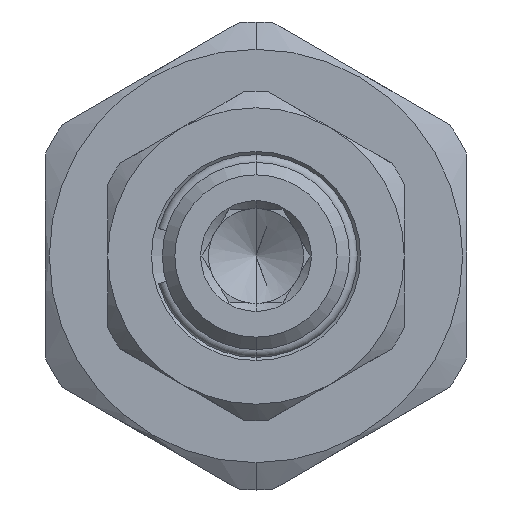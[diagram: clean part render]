
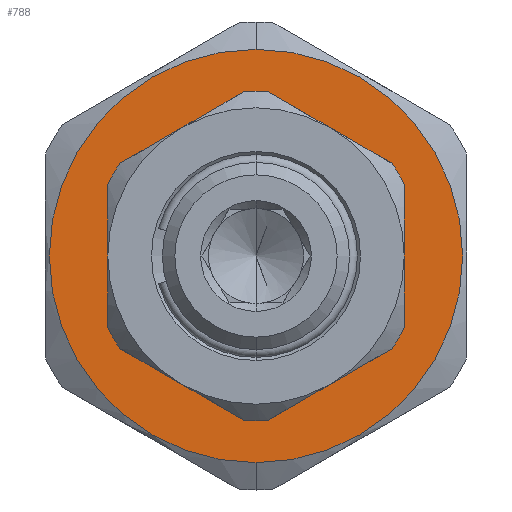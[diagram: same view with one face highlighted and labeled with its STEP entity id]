
A CAD part, left-side view. The second image highlights one B-rep face of the part: STEP entity #788.
In plain terms, the highlighted planar face has unit normal (-1, 0, 0).
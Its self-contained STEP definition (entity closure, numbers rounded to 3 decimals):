
#93 = CIRCLE ( 'NONE', #8379, 13.25 ) ;
#389 = CARTESIAN_POINT ( 'NONE',  ( -36., 0., 0. ) ) ;
#471 = AXIS2_PLACEMENT_3D ( 'NONE', #8815, #3409, #9232 ) ;
#739 = ORIENTED_EDGE ( 'NONE', *, *, #4843, .F. ) ;
#788 = ADVANCED_FACE ( 'NONE', ( #6134, #1448 ), #3931, .F. ) ;
#803 = AXIS2_PLACEMENT_3D ( 'NONE', #4957, #6994, #5542 ) ;
#976 = VERTEX_POINT ( 'NONE', #6452 ) ;
#1022 = CIRCLE ( 'NONE', #5038, 9.5 ) ;
#1064 = ORIENTED_EDGE ( 'NONE', *, *, #6337, .T. ) ;
#1067 = CARTESIAN_POINT ( 'NONE',  ( -36., 0., 13.25 ) ) ;
#1151 = DIRECTION ( 'NONE',  ( 0., 0., 1. ) ) ;
#1167 = ORIENTED_EDGE ( 'NONE', *, *, #4445, .F. ) ;
#1336 = CARTESIAN_POINT ( 'NONE',  ( -36., 0., 0. ) ) ;
#1448 = FACE_OUTER_BOUND ( 'NONE', #3711, .T. ) ;
#1480 = DIRECTION ( 'NONE',  ( -1., 0., 0. ) ) ;
#1776 = CARTESIAN_POINT ( 'NONE',  ( -36., 0., 0. ) ) ;
#1960 = CARTESIAN_POINT ( 'NONE',  ( -36., -4.75, -8.227 ) ) ;
#1981 = VERTEX_POINT ( 'NONE', #2653 ) ;
#2010 = VERTEX_POINT ( 'NONE', #7930 ) ;
#2073 = CARTESIAN_POINT ( 'NONE',  ( -36., 9.5, 0. ) ) ;
#2404 = ORIENTED_EDGE ( 'NONE', *, *, #4475, .F. ) ;
#2481 = DIRECTION ( 'NONE',  ( 0., -1., 0. ) ) ;
#2550 = ORIENTED_EDGE ( 'NONE', *, *, #4758, .F. ) ;
#2653 = CARTESIAN_POINT ( 'NONE',  ( -36., 4.75, 8.227 ) ) ;
#2920 = VERTEX_POINT ( 'NONE', #1067 ) ;
#3320 = VERTEX_POINT ( 'NONE', #8281 ) ;
#3409 = DIRECTION ( 'NONE',  ( -1., 0., 0. ) ) ;
#3711 = EDGE_LOOP ( 'NONE', ( #4073, #1064 ) ) ;
#3821 = CIRCLE ( 'NONE', #6501, 9.5 ) ;
#3931 = PLANE ( 'NONE',  #803 ) ;
#3943 = EDGE_CURVE ( 'NONE', #2010, #2920, #6279, .T. ) ;
#4044 = CIRCLE ( 'NONE', #5166, 9.5 ) ;
#4073 = ORIENTED_EDGE ( 'NONE', *, *, #3943, .T. ) ;
#4194 = EDGE_CURVE ( 'NONE', #5711, #976, #8250, .T. ) ;
#4273 = EDGE_CURVE ( 'NONE', #976, #3320, #3821, .T. ) ;
#4365 = DIRECTION ( 'NONE',  ( -1., 0., 0. ) ) ;
#4411 = EDGE_LOOP ( 'NONE', ( #739, #2550, #2404, #1167, #8162, #6191 ) ) ;
#4445 = EDGE_CURVE ( 'NONE', #3320, #1981, #1022, .T. ) ;
#4475 = EDGE_CURVE ( 'NONE', #1981, #4653, #4044, .T. ) ;
#4653 = VERTEX_POINT ( 'NONE', #2073 ) ;
#4758 = EDGE_CURVE ( 'NONE', #4653, #8159, #6636, .T. ) ;
#4843 = EDGE_CURVE ( 'NONE', #8159, #5711, #6437, .T. ) ;
#4957 = CARTESIAN_POINT ( 'NONE',  ( -36., 13.25, 0. ) ) ;
#5033 = DIRECTION ( 'NONE',  ( 0., -1., 0. ) ) ;
#5038 = AXIS2_PLACEMENT_3D ( 'NONE', #1776, #4365, #2481 ) ;
#5166 = AXIS2_PLACEMENT_3D ( 'NONE', #5874, #1480, #5033 ) ;
#5342 = AXIS2_PLACEMENT_3D ( 'NONE', #389, #5593, #1151 ) ;
#5349 = DIRECTION ( 'NONE',  ( 0., 0., 1. ) ) ;
#5357 = DIRECTION ( 'NONE',  ( -1., 0., 0. ) ) ;
#5369 = CARTESIAN_POINT ( 'NONE',  ( -36., 0., 0. ) ) ;
#5542 = DIRECTION ( 'NONE',  ( 0., 0., -1. ) ) ;
#5593 = DIRECTION ( 'NONE',  ( -1., 0., 0. ) ) ;
#5711 = VERTEX_POINT ( 'NONE', #1960 ) ;
#5874 = CARTESIAN_POINT ( 'NONE',  ( -36., 0., 0. ) ) ;
#6134 = FACE_BOUND ( 'NONE', #4411, .T. ) ;
#6191 = ORIENTED_EDGE ( 'NONE', *, *, #4194, .F. ) ;
#6279 = CIRCLE ( 'NONE', #5342, 13.25 ) ;
#6337 = EDGE_CURVE ( 'NONE', #2920, #2010, #93, .T. ) ;
#6437 = CIRCLE ( 'NONE', #8203, 9.5 ) ;
#6452 = CARTESIAN_POINT ( 'NONE',  ( -36., -9.5, 0. ) ) ;
#6501 = AXIS2_PLACEMENT_3D ( 'NONE', #1336, #8486, #6523 ) ;
#6523 = DIRECTION ( 'NONE',  ( 0., -1., 0. ) ) ;
#6636 = CIRCLE ( 'NONE', #8567, 9.5 ) ;
#6902 = CARTESIAN_POINT ( 'NONE',  ( -36., 0., 0. ) ) ;
#6994 = DIRECTION ( 'NONE',  ( 1., 0., 0. ) ) ;
#7930 = CARTESIAN_POINT ( 'NONE',  ( -36., 0., -13.25 ) ) ;
#8159 = VERTEX_POINT ( 'NONE', #9542 ) ;
#8162 = ORIENTED_EDGE ( 'NONE', *, *, #4273, .F. ) ;
#8203 = AXIS2_PLACEMENT_3D ( 'NONE', #6902, #8637, #8622 ) ;
#8250 = CIRCLE ( 'NONE', #471, 9.5 ) ;
#8281 = CARTESIAN_POINT ( 'NONE',  ( -36., -4.75, 8.227 ) ) ;
#8379 = AXIS2_PLACEMENT_3D ( 'NONE', #5369, #5357, #5349 ) ;
#8486 = DIRECTION ( 'NONE',  ( -1., 0., 0. ) ) ;
#8567 = AXIS2_PLACEMENT_3D ( 'NONE', #9436, #9424, #9418 ) ;
#8622 = DIRECTION ( 'NONE',  ( 0., -1., 0. ) ) ;
#8637 = DIRECTION ( 'NONE',  ( -1., 0., 0. ) ) ;
#8815 = CARTESIAN_POINT ( 'NONE',  ( -36., 0., 0. ) ) ;
#9232 = DIRECTION ( 'NONE',  ( 0., -1., 0. ) ) ;
#9418 = DIRECTION ( 'NONE',  ( 0., -1., 0. ) ) ;
#9424 = DIRECTION ( 'NONE',  ( -1., 0., 0. ) ) ;
#9436 = CARTESIAN_POINT ( 'NONE',  ( -36., 0., 0. ) ) ;
#9542 = CARTESIAN_POINT ( 'NONE',  ( -36., 4.75, -8.227 ) ) ;
